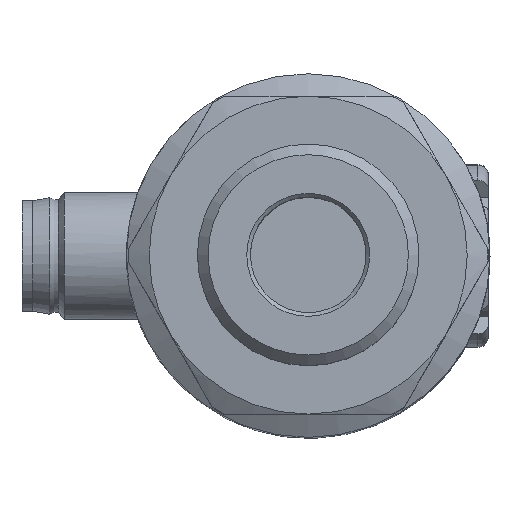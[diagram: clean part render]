
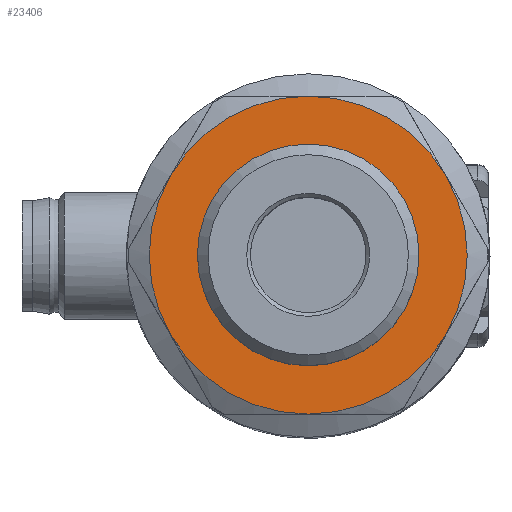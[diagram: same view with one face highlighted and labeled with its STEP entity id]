
A CAD part, top view. The second image highlights one B-rep face of the part: STEP entity #23406.
In plain terms, the highlighted planar face has unit normal (0, 0, 1).
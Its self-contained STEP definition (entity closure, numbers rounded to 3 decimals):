
#22396=CARTESIAN_POINT('',(-12.99,-7.5,47.3));
#22397=VERTEX_POINT('',#22396);
#22802=CARTESIAN_POINT('',(-12.99,7.5,47.3));
#22803=VERTEX_POINT('',#22802);
#22804=CARTESIAN_POINT('',(0.,0.,47.3));
#22805=DIRECTION('',(0.,0.,1.));
#22806=DIRECTION('',(-0.5,-0.866,0.));
#22807=AXIS2_PLACEMENT_3D('',#22804,#22805,#22806);
#22808=CIRCLE('',#22807,15.);
#22809=EDGE_CURVE('',#22803,#22397,#22808,.T.);
#22880=CARTESIAN_POINT('',(0.,15.,47.3));
#22881=VERTEX_POINT('',#22880);
#22882=CARTESIAN_POINT('',(0.,0.,47.3));
#22883=DIRECTION('',(0.,0.,1.));
#22884=DIRECTION('',(-0.5,-0.866,0.));
#22885=AXIS2_PLACEMENT_3D('',#22882,#22883,#22884);
#22886=CIRCLE('',#22885,15.);
#22887=EDGE_CURVE('',#22881,#22803,#22886,.T.);
#22958=CARTESIAN_POINT('',(12.99,7.5,47.3));
#22959=VERTEX_POINT('',#22958);
#22960=CARTESIAN_POINT('',(0.,0.,47.3));
#22961=DIRECTION('',(0.,0.,1.));
#22962=DIRECTION('',(-0.5,-0.866,0.));
#22963=AXIS2_PLACEMENT_3D('',#22960,#22961,#22962);
#22964=CIRCLE('',#22963,15.);
#22965=EDGE_CURVE('',#22959,#22881,#22964,.T.);
#23036=CARTESIAN_POINT('',(12.99,-7.5,47.3));
#23037=VERTEX_POINT('',#23036);
#23038=CARTESIAN_POINT('',(0.,0.,47.3));
#23039=DIRECTION('',(0.,0.,1.));
#23040=DIRECTION('',(-0.5,-0.866,0.));
#23041=AXIS2_PLACEMENT_3D('',#23038,#23039,#23040);
#23042=CIRCLE('',#23041,15.);
#23043=EDGE_CURVE('',#23037,#22959,#23042,.T.);
#23114=CARTESIAN_POINT('',(0.,-15.,47.3));
#23115=VERTEX_POINT('',#23114);
#23116=CARTESIAN_POINT('',(0.,0.,47.3));
#23117=DIRECTION('',(0.,0.,1.));
#23118=DIRECTION('',(-0.5,-0.866,0.));
#23119=AXIS2_PLACEMENT_3D('',#23116,#23117,#23118);
#23120=CIRCLE('',#23119,15.);
#23121=EDGE_CURVE('',#23115,#23037,#23120,.T.);
#23190=CARTESIAN_POINT('',(0.,0.,47.3));
#23191=DIRECTION('',(0.,0.,1.));
#23192=DIRECTION('',(-0.5,-0.866,0.));
#23193=AXIS2_PLACEMENT_3D('',#23190,#23191,#23192);
#23194=CIRCLE('',#23193,15.);
#23195=EDGE_CURVE('',#22397,#23115,#23194,.T.);
#23382=CARTESIAN_POINT('',(0.,0.,47.3));
#23383=DIRECTION('',(0.0,0.0,-1.0));
#23384=DIRECTION('',(0.5,0.866,0.0));
#23385=AXIS2_PLACEMENT_3D('',#23382,#23383,#23384);
#23386=PLANE('',#23385);
#23387=ORIENTED_EDGE('',*,*,#23195,.T.);
#23388=ORIENTED_EDGE('',*,*,#23121,.T.);
#23389=ORIENTED_EDGE('',*,*,#23043,.T.);
#23390=ORIENTED_EDGE('',*,*,#22965,.T.);
#23391=ORIENTED_EDGE('',*,*,#22887,.T.);
#23392=ORIENTED_EDGE('',*,*,#22809,.T.);
#23393=EDGE_LOOP('',(#23387,#23388,#23389,#23390,#23391,#23392));
#23394=FACE_OUTER_BOUND('',#23393,.T.);
#23395=CARTESIAN_POINT('',(-5.,-8.66,47.3));
#23396=VERTEX_POINT('',#23395);
#23397=CARTESIAN_POINT('',(0.,0.,47.3));
#23398=DIRECTION('',(0.,0.,1.));
#23399=DIRECTION('',(0.5,0.866,0.));
#23400=AXIS2_PLACEMENT_3D('',#23397,#23398,#23399);
#23401=CIRCLE('',#23400,10.0);
#23402=EDGE_CURVE('',#23396,#23396,#23401,.T.);
#23403=ORIENTED_EDGE('',*,*,#23402,.F.);
#23404=EDGE_LOOP('',(#23403));
#23405=FACE_BOUND('',#23404,.T.);
#23406=ADVANCED_FACE('',(#23394,#23405),#23386,.F.);
